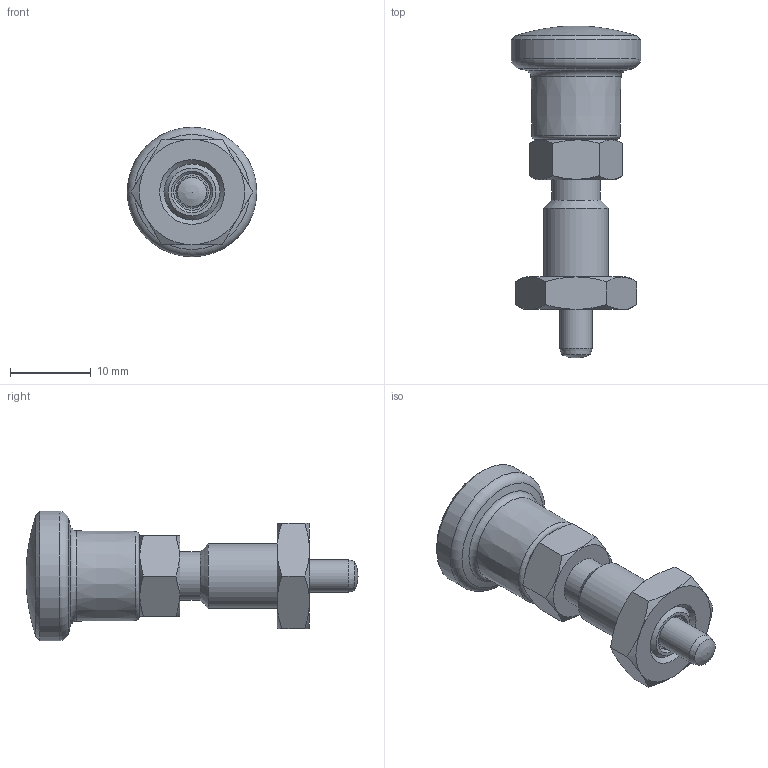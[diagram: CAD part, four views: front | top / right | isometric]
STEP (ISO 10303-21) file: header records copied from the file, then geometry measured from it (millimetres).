
FILE_DESCRIPTION( ( 'STEP AP203' ), '1' );
FILE_NAME( 'C:/Temp/Ganter_Step_05_03_2020/data/3_1/gn817/gn817_ni-rastbolzen_rot/Stainless Steel-Indexing plunger GN 817-4-6-BK-NI-RT (deactivated-0).stp', '2020-03-12T09:00:25', ( 'License CC BY-ND 4.0' ), ( 'CADENAS' ), ' ', 'PARTsolutions', ' ' );
FILE_SCHEMA( ( 'CONFIG_CONTROL_DESIGN' ) );
Length unit declared in the file: millimetre
Products named in the file (5): Stainless Steel-Indexing plunger GN 817-4-6-BK-NI-RT (deactivated-0); _Stainless steel-Indexing plunger GN 817-4-6-BK-NI-RT (deactivated-0)-d; _Stainless steel-Indexing plunger GN 817-4-6-B-NI-RT-2; _Stainless Steel Indexing plunger GN 817-4-6-B-NI-RT-1; _Stainless steel-Indexing plunger GN 817-4-6-BK-NI-RT (deactivated-0)-3
Assembly tree (4 placements, depth 2):
  Stainless Steel-Indexing plunger GN 817-4-6-BK-NI-RT (deactivated-0)
    _Stainless steel-Indexing plunger GN 817-4-6-BK-NI-RT (deactivated-0)-d
    _Stainless steel-Indexing plunger GN 817-4-6-B-NI-RT-2
    _Stainless Steel Indexing plunger GN 817-4-6-B-NI-RT-1
    _Stainless steel-Indexing plunger GN 817-4-6-BK-NI-RT (deactivated-0)-3
Bounding box: 16 x 41 x 16 mm (x, y, z)
Volume: 3349.4 mm3; surface area: 2631.3 mm2
Topology: 3 solids, 3 shells, 61 faces, 125 edges, 74 vertices
Faces by surface type: cone 24, plane 21, cylinder 9, torus 5, bspline 1, sphere 1
Full cylindrical faces by diameter (mm): 3 x2, 4 x1, 4.5 x2, 6 x1, 6.917 x1, 8 x1, 16 x1
Entity records: 1791 total; most frequent: CARTESIAN_POINT 504, DIRECTION 234, ORIENTED_EDGE 188, AXIS2_PLACEMENT_3D 111, EDGE_LOOP 96, EDGE_CURVE 94, FACE_OUTER_BOUND 75, VERTEX_POINT 72
